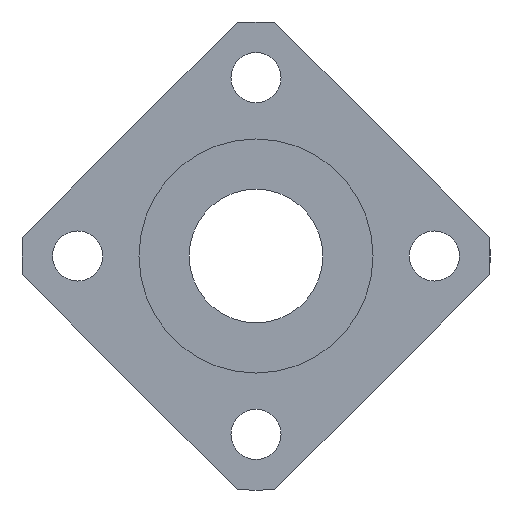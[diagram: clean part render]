
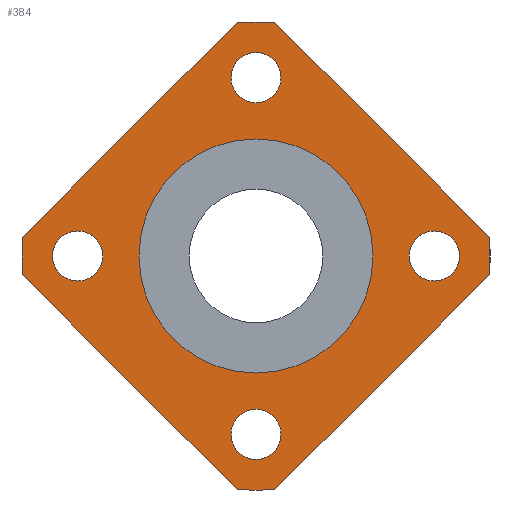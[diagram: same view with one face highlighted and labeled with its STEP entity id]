
A CAD part, left-side view. The second image highlights one B-rep face of the part: STEP entity #384.
In plain terms, the highlighted planar face has unit normal (-1, 0, 0).
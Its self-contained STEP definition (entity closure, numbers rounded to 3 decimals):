
#26=PLANE('',#445);
#41=LINE('',#664,#57);
#42=LINE('',#665,#58);
#43=LINE('',#666,#59);
#44=LINE('',#670,#60);
#57=VECTOR('',#546,1000.);
#58=VECTOR('',#547,1000.);
#59=VECTOR('',#548,1000.);
#60=VECTOR('',#551,1000.);
#102=ORIENTED_EDGE('',*,*,#184,.T.);
#103=ORIENTED_EDGE('',*,*,#155,.F.);
#104=ORIENTED_EDGE('',*,*,#185,.T.);
#105=ORIENTED_EDGE('',*,*,#159,.F.);
#106=ORIENTED_EDGE('',*,*,#186,.T.);
#107=ORIENTED_EDGE('',*,*,#187,.F.);
#108=ORIENTED_EDGE('',*,*,#188,.T.);
#109=ORIENTED_EDGE('',*,*,#153,.F.);
#110=ORIENTED_EDGE('',*,*,#189,.T.);
#111=ORIENTED_EDGE('',*,*,#190,.T.);
#112=ORIENTED_EDGE('',*,*,#191,.T.);
#113=ORIENTED_EDGE('',*,*,#192,.T.);
#114=ORIENTED_EDGE('',*,*,#172,.T.);
#153=EDGE_CURVE('',#197,#198,#232,.T.);
#155=EDGE_CURVE('',#199,#200,#233,.T.);
#159=EDGE_CURVE('',#203,#204,#235,.T.);
#172=EDGE_CURVE('',#216,#216,#246,.T.);
#184=EDGE_CURVE('',#197,#200,#41,.T.);
#185=EDGE_CURVE('',#199,#204,#42,.T.);
#186=EDGE_CURVE('',#203,#225,#43,.T.);
#187=EDGE_CURVE('',#226,#225,#254,.T.);
#188=EDGE_CURVE('',#226,#198,#44,.T.);
#189=EDGE_CURVE('',#227,#227,#255,.T.);
#190=EDGE_CURVE('',#228,#228,#256,.T.);
#191=EDGE_CURVE('',#229,#229,#257,.T.);
#192=EDGE_CURVE('',#230,#230,#258,.T.);
#197=VERTEX_POINT('',#594);
#198=VERTEX_POINT('',#596);
#199=VERTEX_POINT('',#600);
#200=VERTEX_POINT('',#601);
#203=VERTEX_POINT('',#609);
#204=VERTEX_POINT('',#610);
#216=VERTEX_POINT('',#640);
#225=VERTEX_POINT('',#667);
#226=VERTEX_POINT('',#669);
#227=VERTEX_POINT('',#672);
#228=VERTEX_POINT('',#674);
#229=VERTEX_POINT('',#676);
#230=VERTEX_POINT('',#678);
#232=CIRCLE('',#413,21.);
#233=CIRCLE('',#415,21.);
#235=CIRCLE('',#418,21.);
#246=CIRCLE('',#434,10.5);
#254=CIRCLE('',#446,21.);
#255=CIRCLE('',#447,2.25);
#256=CIRCLE('',#448,2.25);
#257=CIRCLE('',#449,2.25);
#258=CIRCLE('',#450,2.25);
#282=EDGE_LOOP('',(#102,#103,#104,#105,#106,#107,#108,#109));
#283=EDGE_LOOP('',(#110));
#284=EDGE_LOOP('',(#111));
#285=EDGE_LOOP('',(#112));
#286=EDGE_LOOP('',(#113));
#287=EDGE_LOOP('',(#114));
#332=FACE_BOUND('',#282,.T.);
#333=FACE_BOUND('',#283,.T.);
#334=FACE_BOUND('',#284,.T.);
#335=FACE_BOUND('',#285,.T.);
#336=FACE_BOUND('',#286,.T.);
#337=FACE_BOUND('',#287,.T.);
#384=ADVANCED_FACE('',(#332,#333,#334,#335,#336,#337),#26,.F.);
#413=AXIS2_PLACEMENT_3D('',#595,#471,#472);
#415=AXIS2_PLACEMENT_3D('',#599,#476,#477);
#418=AXIS2_PLACEMENT_3D('',#608,#484,#485);
#434=AXIS2_PLACEMENT_3D('',#639,#518,#519);
#445=AXIS2_PLACEMENT_3D('',#663,#544,#545);
#446=AXIS2_PLACEMENT_3D('',#668,#549,#550);
#447=AXIS2_PLACEMENT_3D('',#671,#552,#553);
#448=AXIS2_PLACEMENT_3D('',#673,#554,#555);
#449=AXIS2_PLACEMENT_3D('',#675,#556,#557);
#450=AXIS2_PLACEMENT_3D('',#677,#558,#559);
#471=DIRECTION('',(1.,0.,0.));
#472=DIRECTION('',(0.,0.,-1.));
#476=DIRECTION('',(1.,0.,0.));
#477=DIRECTION('',(0.,0.,-1.));
#484=DIRECTION('',(1.,0.,0.));
#485=DIRECTION('',(0.,0.,-1.));
#518=DIRECTION('',(1.,0.,0.));
#519=DIRECTION('',(0.,0.,-1.));
#544=DIRECTION('',(1.,0.,0.));
#545=DIRECTION('',(0.,0.,-1.));
#546=DIRECTION('',(0.,0.707,0.707));
#547=DIRECTION('',(0.,0.707,-0.707));
#548=DIRECTION('',(0.,-0.707,-0.707));
#549=DIRECTION('',(1.,0.,0.));
#550=DIRECTION('',(0.,0.,-1.));
#551=DIRECTION('',(0.,-0.707,0.707));
#552=DIRECTION('',(1.,0.,0.));
#553=DIRECTION('',(0.,0.,-1.));
#554=DIRECTION('',(1.,0.,0.));
#555=DIRECTION('',(0.,0.,-1.));
#556=DIRECTION('',(1.,0.,0.));
#557=DIRECTION('',(0.,0.,-1.));
#558=DIRECTION('',(1.,0.,0.));
#559=DIRECTION('',(0.,0.,-1.));
#594=CARTESIAN_POINT('',(22.5,-20.931,1.696));
#595=CARTESIAN_POINT('',(22.5,0.,0.));
#596=CARTESIAN_POINT('',(22.5,-20.931,-1.696));
#599=CARTESIAN_POINT('',(22.5,0.,0.));
#600=CARTESIAN_POINT('',(22.5,1.696,20.931));
#601=CARTESIAN_POINT('',(22.5,-1.696,20.931));
#608=CARTESIAN_POINT('',(22.5,0.,0.));
#609=CARTESIAN_POINT('',(22.5,20.931,-1.696));
#610=CARTESIAN_POINT('',(22.5,20.931,1.696));
#639=CARTESIAN_POINT('',(22.5,0.,0.));
#640=CARTESIAN_POINT('',(22.5,0.,-10.5));
#663=CARTESIAN_POINT('',(22.5,0.,0.));
#664=CARTESIAN_POINT('',(22.5,0.,22.627));
#665=CARTESIAN_POINT('',(22.5,22.627,0.));
#666=CARTESIAN_POINT('',(22.5,0.,-22.627));
#667=CARTESIAN_POINT('',(22.5,1.696,-20.931));
#668=CARTESIAN_POINT('',(22.5,0.,0.));
#669=CARTESIAN_POINT('',(22.5,-1.696,-20.931));
#670=CARTESIAN_POINT('',(22.5,-22.627,0.));
#671=CARTESIAN_POINT('',(22.5,0.,-16.));
#672=CARTESIAN_POINT('',(22.5,0.,-18.25));
#673=CARTESIAN_POINT('',(22.5,-16.,0.));
#674=CARTESIAN_POINT('',(22.5,-16.,-2.25));
#675=CARTESIAN_POINT('',(22.5,0.,16.));
#676=CARTESIAN_POINT('',(22.5,0.,13.75));
#677=CARTESIAN_POINT('',(22.5,16.,0.));
#678=CARTESIAN_POINT('',(22.5,16.,-2.25));
